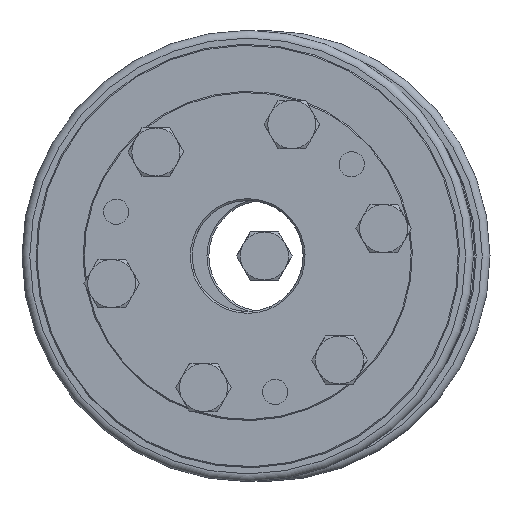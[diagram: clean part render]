
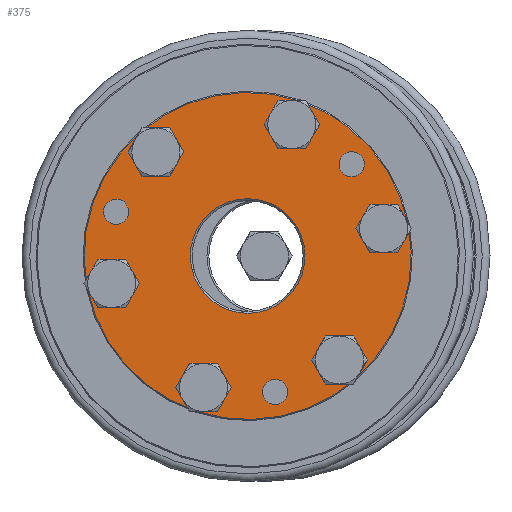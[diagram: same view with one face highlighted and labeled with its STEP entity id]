
A CAD part, left-side view. The second image highlights one B-rep face of the part: STEP entity #375.
In plain terms, the highlighted planar face has unit normal (-1, 0, 0).
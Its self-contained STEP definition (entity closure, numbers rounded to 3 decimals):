
#375 = ADVANCED_FACE( 'NONE', ( #627, #628, #629, #630, #631, #632, #633, #634, #635, #636, #637 ), #638, .F. );
#627 = FACE_OUTER_BOUND( '', #977, .T. );
#628 = FACE_BOUND( '', #978, .T. );
#629 = FACE_BOUND( '', #979, .T. );
#630 = FACE_BOUND( '', #980, .T. );
#631 = FACE_BOUND( '', #981, .T. );
#632 = FACE_BOUND( '', #982, .T. );
#633 = FACE_BOUND( '', #983, .T. );
#634 = FACE_BOUND( '', #984, .T. );
#635 = FACE_BOUND( '', #985, .T. );
#636 = FACE_BOUND( '', #986, .T. );
#637 = FACE_BOUND( '', #987, .T. );
#638 = PLANE( '', #988 );
#977 = EDGE_LOOP( '', ( #1366 ) );
#978 = EDGE_LOOP( '', ( #1367 ) );
#979 = EDGE_LOOP( '', ( #1368 ) );
#980 = EDGE_LOOP( '', ( #1369 ) );
#981 = EDGE_LOOP( '', ( #1370 ) );
#982 = EDGE_LOOP( '', ( #1371 ) );
#983 = EDGE_LOOP( '', ( #1372 ) );
#984 = EDGE_LOOP( '', ( #1373 ) );
#985 = EDGE_LOOP( '', ( #1374 ) );
#986 = EDGE_LOOP( '', ( #1375 ) );
#987 = EDGE_LOOP( '', ( #1376 ) );
#988 = AXIS2_PLACEMENT_3D( '', #1377, #1378, #1379 );
#1366 = ORIENTED_EDGE( '', *, *, #1912, .T. );
#1367 = ORIENTED_EDGE( '', *, *, #1928, .T. );
#1368 = ORIENTED_EDGE( '', *, *, #1925, .F. );
#1369 = ORIENTED_EDGE( '', *, *, #1932, .F. );
#1370 = ORIENTED_EDGE( '', *, *, #1926, .F. );
#1371 = ORIENTED_EDGE( '', *, *, #1930, .F. );
#1372 = ORIENTED_EDGE( '', *, *, #1927, .F. );
#1373 = ORIENTED_EDGE( '', *, *, #1933, .F. );
#1374 = ORIENTED_EDGE( '', *, *, #1934, .F. );
#1375 = ORIENTED_EDGE( '', *, *, #1935, .F. );
#1376 = ORIENTED_EDGE( '', *, *, #1913, .F. );
#1377 = CARTESIAN_POINT( '', ( 0., 15., 0. ) );
#1378 = DIRECTION( '', ( 1., 0., 0. ) );
#1379 = DIRECTION( '', ( 0., 1., 0. ) );
#1912 = EDGE_CURVE( 'NONE', #2057, #2057, #2058, .T. );
#1913 = EDGE_CURVE( 'NONE', #2059, #2059, #2060, .T. );
#1925 = EDGE_CURVE( 'NONE', #2083, #2083, #2084, .T. );
#1926 = EDGE_CURVE( 'NONE', #2085, #2085, #2086, .T. );
#1927 = EDGE_CURVE( 'NONE', #2087, #2087, #2088, .T. );
#1928 = EDGE_CURVE( 'NONE', #2089, #2089, #2090, .T. );
#1930 = EDGE_CURVE( 'NONE', #2093, #2093, #2094, .T. );
#1932 = EDGE_CURVE( 'NONE', #2097, #2097, #2098, .T. );
#1933 = EDGE_CURVE( 'NONE', #2099, #2099, #2100, .T. );
#1934 = EDGE_CURVE( 'NONE', #2101, #2101, #2102, .T. );
#1935 = EDGE_CURVE( 'NONE', #2103, #2103, #2104, .T. );
#2057 = VERTEX_POINT( '', #2267 );
#2058 = CIRCLE( '', #2268, 44.2 );
#2059 = VERTEX_POINT( '', #2269 );
#2060 = CIRCLE( '', #2270, 3.4 );
#2083 = VERTEX_POINT( '', #2293 );
#2084 = CIRCLE( '', #2294, 3.4 );
#2085 = VERTEX_POINT( '', #2295 );
#2086 = CIRCLE( '', #2296, 4.5 );
#2087 = VERTEX_POINT( '', #2297 );
#2088 = CIRCLE( '', #2298, 4.5 );
#2089 = VERTEX_POINT( '', #2299 );
#2090 = CIRCLE( '', #2300, 15.5 );
#2093 = VERTEX_POINT( '', #2303 );
#2094 = CIRCLE( '', #2304, 4.5 );
#2097 = VERTEX_POINT( '', #2307 );
#2098 = CIRCLE( '', #2308, 4.5 );
#2099 = VERTEX_POINT( '', #2309 );
#2100 = CIRCLE( '', #2310, 4.5 );
#2101 = VERTEX_POINT( '', #2311 );
#2102 = CIRCLE( '', #2312, 4.5 );
#2103 = VERTEX_POINT( '', #2313 );
#2104 = CIRCLE( '', #2314, 3.4 );
#2267 = CARTESIAN_POINT( '', ( 0., 0., -44.2 ) );
#2268 = AXIS2_PLACEMENT_3D( '', #2478, #2479, #2480 );
#2269 = CARTESIAN_POINT( '', ( 0., -32.476, 22.15 ) );
#2270 = AXIS2_PLACEMENT_3D( '', #2481, #2482, #2483 );
#2293 = CARTESIAN_POINT( '', ( 0., 0., -34.1 ) );
#2294 = AXIS2_PLACEMENT_3D( '', #2517, #2518, #2519 );
#2295 = CARTESIAN_POINT( '', ( 0., 37.5, 4.5 ) );
#2296 = AXIS2_PLACEMENT_3D( '', #2520, #2521, #2522 );
#2297 = CARTESIAN_POINT( '', ( 0., -18.75, -27.976 ) );
#2298 = AXIS2_PLACEMENT_3D( '', #2523, #2524, #2525 );
#2299 = CARTESIAN_POINT( '', ( 0., 0., -15.5 ) );
#2300 = AXIS2_PLACEMENT_3D( '', #2526, #2527, #2528 );
#2303 = CARTESIAN_POINT( '', ( 0., 18.75, -27.976 ) );
#2304 = AXIS2_PLACEMENT_3D( '', #2532, #2533, #2534 );
#2307 = CARTESIAN_POINT( '', ( 0., 18.75, 36.976 ) );
#2308 = AXIS2_PLACEMENT_3D( '', #2538, #2539, #2540 );
#2309 = CARTESIAN_POINT( '', ( 0., -37.5, 4.5 ) );
#2310 = AXIS2_PLACEMENT_3D( '', #2541, #2542, #2543 );
#2311 = CARTESIAN_POINT( '', ( 0., -18.75, 36.976 ) );
#2312 = AXIS2_PLACEMENT_3D( '', #2544, #2545, #2546 );
#2313 = CARTESIAN_POINT( '', ( 0., 32.476, 22.15 ) );
#2314 = AXIS2_PLACEMENT_3D( '', #2547, #2548, #2549 );
#2478 = CARTESIAN_POINT( '', ( 0., 0., 0. ) );
#2479 = DIRECTION( '', ( -1., 0., 0. ) );
#2480 = DIRECTION( '', ( 0., 0., -1. ) );
#2481 = CARTESIAN_POINT( '', ( 0., -32.476, 18.75 ) );
#2482 = DIRECTION( '', ( -1., 0., 0. ) );
#2483 = DIRECTION( '', ( 0., 0., 1. ) );
#2517 = CARTESIAN_POINT( '', ( 0., 0., -37.5 ) );
#2518 = DIRECTION( '', ( -1., 0., 0. ) );
#2519 = DIRECTION( '', ( 0., 0., 1. ) );
#2520 = CARTESIAN_POINT( '', ( 0., 37.5, 0. ) );
#2521 = DIRECTION( '', ( -1., 0., 0. ) );
#2522 = DIRECTION( '', ( 0., 0., 1. ) );
#2523 = CARTESIAN_POINT( '', ( 0., -18.75, -32.476 ) );
#2524 = DIRECTION( '', ( -1., 0., 0. ) );
#2525 = DIRECTION( '', ( 0., 0., 1. ) );
#2526 = CARTESIAN_POINT( '', ( 0., 0., 0. ) );
#2527 = DIRECTION( '', ( 1., 0., 0. ) );
#2528 = DIRECTION( '', ( 0., 0., -1. ) );
#2532 = CARTESIAN_POINT( '', ( 0., 18.75, -32.476 ) );
#2533 = DIRECTION( '', ( -1., 0., 0. ) );
#2534 = DIRECTION( '', ( 0., 0., 1. ) );
#2538 = CARTESIAN_POINT( '', ( 0., 18.75, 32.476 ) );
#2539 = DIRECTION( '', ( -1., 0., 0. ) );
#2540 = DIRECTION( '', ( 0., 0., 1. ) );
#2541 = CARTESIAN_POINT( '', ( 0., -37.5, 0. ) );
#2542 = DIRECTION( '', ( -1., 0., 0. ) );
#2543 = DIRECTION( '', ( 0., 0., 1. ) );
#2544 = CARTESIAN_POINT( '', ( 0., -18.75, 32.476 ) );
#2545 = DIRECTION( '', ( -1., 0., 0. ) );
#2546 = DIRECTION( '', ( 0., 0., 1. ) );
#2547 = CARTESIAN_POINT( '', ( 0., 32.476, 18.75 ) );
#2548 = DIRECTION( '', ( -1., 0., 0. ) );
#2549 = DIRECTION( '', ( 0., 0., 1. ) );
